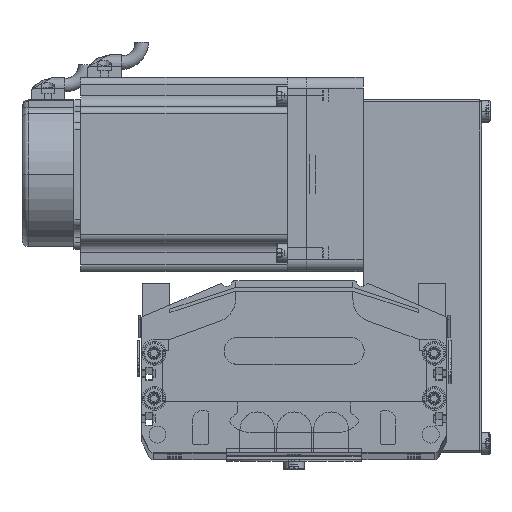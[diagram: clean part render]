
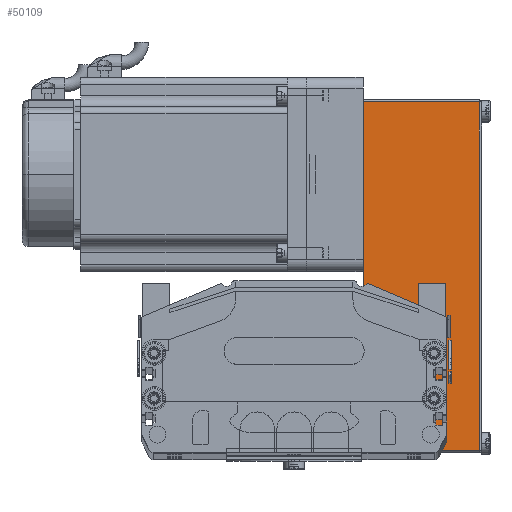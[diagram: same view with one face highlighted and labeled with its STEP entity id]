
A CAD part, top view. The second image highlights one B-rep face of the part: STEP entity #50109.
In plain terms, the highlighted planar face has unit normal (0, 0, 1) as drawn and (0, -1, 0) by its records, which use the part's own axes.
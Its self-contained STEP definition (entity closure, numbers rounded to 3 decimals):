
#10634 = DIRECTION ( 'NONE',  ( 0., 0., -1. ) ) ;
#10635 = VECTOR ( 'NONE', #10634, 1000. ) ;
#10637 = CARTESIAN_POINT ( 'NONE',  ( -123.2, -40., 52.5 ) ) ;
#10639 = LINE ( 'NONE', #10637, #10635 ) ;
#10643 = DIRECTION ( 'NONE',  ( 0., 0., 1. ) ) ;
#10644 = VECTOR ( 'NONE', #10643, 1000. ) ;
#10646 = DIRECTION ( 'NONE',  ( -1., 0., 0. ) ) ;
#10651 = LINE ( 'NONE', #10654, #10644 ) ;
#10654 = CARTESIAN_POINT ( 'NONE',  ( 31., -40., 52.5 ) ) ;
#10657 = AXIS2_PLACEMENT_3D ( 'NONE', #10667, #10675, #10646 ) ;
#10658 = DIRECTION ( 'NONE',  ( -1., 0., 0. ) ) ;
#10659 = VECTOR ( 'NONE', #10658, 1000. ) ;
#10660 = CARTESIAN_POINT ( 'NONE',  ( 32., -40., 51.5 ) ) ;
#10661 = LINE ( 'NONE', #10660, #10659 ) ;
#10667 = CARTESIAN_POINT ( 'NONE',  ( 32., -40., 52.5 ) ) ;
#10668 = PLANE ( 'NONE',  #10657 ) ;
#10675 = DIRECTION ( 'NONE',  ( 0., 1., 0. ) ) ;
#10682 = CARTESIAN_POINT ( 'NONE',  ( 31., -40., 51.5 ) ) ;
#10739 = FACE_OUTER_BOUND ( 'NONE', #50194, .T. ) ;
#11209 = CARTESIAN_POINT ( 'NONE',  ( 32., -40., 0. ) ) ;
#11210 = LINE ( 'NONE', #11209, #11232 ) ;
#11230 = CARTESIAN_POINT ( 'NONE',  ( -123.2, -40., 0. ) ) ;
#11231 = DIRECTION ( 'NONE',  ( 1., 0., 0. ) ) ;
#11232 = VECTOR ( 'NONE', #11231, 1000. ) ;
#11238 = CARTESIAN_POINT ( 'NONE',  ( -123.2, -40., 51.5 ) ) ;
#11949 = CARTESIAN_POINT ( 'NONE',  ( 31., -40., 0. ) ) ;
#50098 = EDGE_CURVE ( 'NONE', #50183, #50237, #10661, .T. ) ;
#50104 = ORIENTED_EDGE ( 'NONE', *, *, #50098, .T. ) ;
#50105 = ORIENTED_EDGE ( 'NONE', *, *, #50111, .T. ) ;
#50109 = ADVANCED_FACE ( 'NONE', ( #10739 ), #10668, .F. ) ;
#50111 = EDGE_CURVE ( 'NONE', #50358, #50183, #10651, .T. ) ;
#50113 = EDGE_CURVE ( 'NONE', #50237, #50223, #10639, .T. ) ;
#50116 = ORIENTED_EDGE ( 'NONE', *, *, #50113, .T. ) ;
#50182 = ORIENTED_EDGE ( 'NONE', *, *, #50221, .T. ) ;
#50183 = VERTEX_POINT ( 'NONE', #10682 ) ;
#50194 = EDGE_LOOP ( 'NONE', ( #50182, #50105, #50104, #50116 ) ) ;
#50221 = EDGE_CURVE ( 'NONE', #50223, #50358, #11210, .T. ) ;
#50223 = VERTEX_POINT ( 'NONE', #11230 ) ;
#50237 = VERTEX_POINT ( 'NONE', #11238 ) ;
#50358 = VERTEX_POINT ( 'NONE', #11949 ) ;
